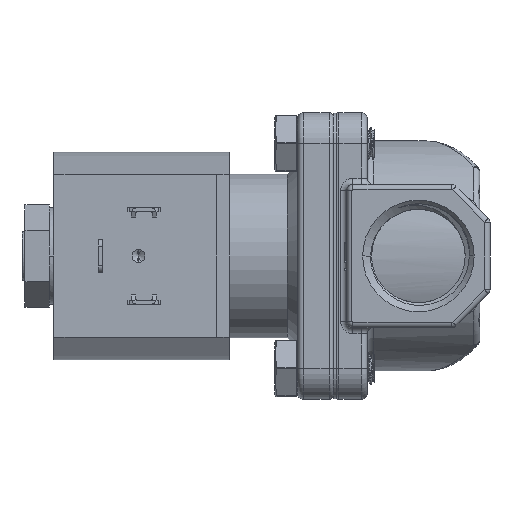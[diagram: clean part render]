
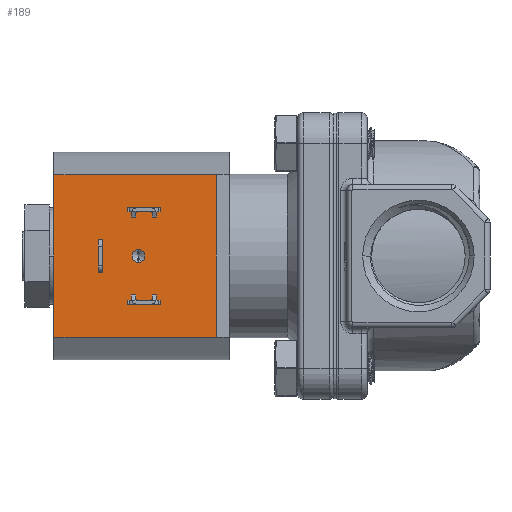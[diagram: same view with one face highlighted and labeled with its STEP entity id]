
A CAD part, left-side view. The second image highlights one B-rep face of the part: STEP entity #189.
In plain terms, the highlighted planar face has unit normal (-1, 0, 0).
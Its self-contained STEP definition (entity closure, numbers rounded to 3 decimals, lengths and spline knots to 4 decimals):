
#141 = ORIENTED_EDGE ( 'NONE', *, *, #15889, .F. ) ;
#189 = ADVANCED_FACE ( 'Defeatured_0_408', ( #18984, #29758, #16335, #9251, #17200 ), #12078, .T. ) ;
#251 = VERTEX_POINT ( 'NONE', #28149 ) ;
#536 = EDGE_CURVE ( 'NONE', #11740, #24537, #7478, .T. ) ;
#1131 = CARTESIAN_POINT ( 'NONE',  ( -0.982, 1.33, -0.371 ) ) ;
#1153 = CARTESIAN_POINT ( 'NONE',  ( -0.982, 1.33, -0.339 ) ) ;
#1196 = DIRECTION ( 'NONE',  ( 0., 1., 0. ) ) ;
#1374 = DIRECTION ( 'NONE',  ( 0., 1., 0. ) ) ;
#1935 = VECTOR ( 'NONE', #2552, 39.3701 ) ;
#2452 = VERTEX_POINT ( 'NONE', #26514 ) ;
#2552 = DIRECTION ( 'NONE',  ( 0., -1., 0. ) ) ;
#2632 = CARTESIAN_POINT ( 'NONE',  ( -0.982, 1.805, -0.1265 ) ) ;
#4184 = LINE ( 'NONE', #15298, #6040 ) ;
#4232 = ORIENTED_EDGE ( 'NONE', *, *, #21025, .F. ) ;
#4579 = ORIENTED_EDGE ( 'NONE', *, *, #33064, .F. ) ;
#4583 = LINE ( 'NONE', #29458, #34746 ) ;
#5320 = VECTOR ( 'NONE', #21843, 39.3701 ) ;
#6040 = VECTOR ( 'NONE', #25714, 39.3701 ) ;
#6442 = CARTESIAN_POINT ( 'NONE',  ( -0.982, 1.773, -0.1265 ) ) ;
#6453 = CARTESIAN_POINT ( 'NONE',  ( -0.982, 1.58, 0.339 ) ) ;
#6896 = CARTESIAN_POINT ( 'NONE',  ( -0.982, 1.58, 0.371 ) ) ;
#6968 = EDGE_LOOP ( 'NONE', ( #12066, #25446, #32885, #16930 ) ) ;
#7101 = ORIENTED_EDGE ( 'NONE', *, *, #20048, .F. ) ;
#7478 = LINE ( 'NONE', #18247, #34078 ) ;
#7483 = CARTESIAN_POINT ( 'NONE',  ( -0.982, 1.805, 0.1265 ) ) ;
#8448 = CARTESIAN_POINT ( 'NONE',  ( -0.982, 1.805, 0.1265 ) ) ;
#8556 = EDGE_LOOP ( 'NONE', ( #4232, #7101, #32869, #9155 ) ) ;
#8922 = LINE ( 'NONE', #11565, #20991 ) ;
#9098 = VERTEX_POINT ( 'NONE', #10695 ) ;
#9155 = ORIENTED_EDGE ( 'NONE', *, *, #20019, .T. ) ;
#9161 = VECTOR ( 'NONE', #31577, 39.3701 ) ;
#9251 = FACE_BOUND ( 'NONE', #30604, .T. ) ;
#9790 = CARTESIAN_POINT ( 'NONE',  ( -0.982, 0.896, -0.625 ) ) ;
#10081 = EDGE_CURVE ( 'NONE', #23836, #30489, #4583, .T. ) ;
#10289 = VECTOR ( 'NONE', #28170, 39.3701 ) ;
#10695 = CARTESIAN_POINT ( 'NONE',  ( -0.982, 1.58, -0.339 ) ) ;
#11565 = CARTESIAN_POINT ( 'NONE',  ( -0.982, 1.58, 0.371 ) ) ;
#11581 = LINE ( 'NONE', #17055, #33244 ) ;
#11740 = VERTEX_POINT ( 'NONE', #24081 ) ;
#11994 = VERTEX_POINT ( 'NONE', #34009 ) ;
#12066 = ORIENTED_EDGE ( 'NONE', *, *, #10081, .T. ) ;
#12078 = PLANE ( 'NONE',  #23345 ) ;
#12331 = VECTOR ( 'NONE', #1374, 39.3701 ) ;
#12704 = CARTESIAN_POINT ( 'NONE',  ( -0.982, 2.146, -0.625 ) ) ;
#12743 = VERTEX_POINT ( 'NONE', #1131 ) ;
#13348 = EDGE_CURVE ( 'NONE', #32670, #9098, #4184, .T. ) ;
#14377 = ORIENTED_EDGE ( 'NONE', *, *, #21845, .F. ) ;
#14497 = VERTEX_POINT ( 'NONE', #12704 ) ;
#14606 = LINE ( 'NONE', #17616, #12331 ) ;
#14690 = AXIS2_PLACEMENT_3D ( 'NONE', #30464, #33640, #17391 ) ;
#14907 = VERTEX_POINT ( 'NONE', #9790 ) ;
#14969 = EDGE_CURVE ( 'NONE', #25471, #11994, #15601, .T. ) ;
#15298 = CARTESIAN_POINT ( 'NONE',  ( -0.982, 1.58, -0.371 ) ) ;
#15601 = LINE ( 'NONE', #7483, #33758 ) ;
#15627 = CARTESIAN_POINT ( 'NONE',  ( -0.982, 1.4954, 0.0497 ) ) ;
#15889 = EDGE_CURVE ( 'NONE', #16027, #21202, #16263, .T. ) ;
#15956 = LINE ( 'NONE', #29379, #1935 ) ;
#16027 = VERTEX_POINT ( 'NONE', #31785 ) ;
#16131 = EDGE_CURVE ( 'NONE', #2452, #30489, #31011, .T. ) ;
#16263 = CIRCLE ( 'NONE', #28678, 0.0497 ) ;
#16335 = FACE_OUTER_BOUND ( 'NONE', #8556, .T. ) ;
#16681 = CARTESIAN_POINT ( 'NONE',  ( -0.982, 0.896, -0.625 ) ) ;
#16930 = ORIENTED_EDGE ( 'NONE', *, *, #28326, .T. ) ;
#17055 = CARTESIAN_POINT ( 'NONE',  ( -0.982, 1.33, -0.371 ) ) ;
#17127 = DIRECTION ( 'NONE',  ( 0., 0., 1. ) ) ;
#17200 = FACE_BOUND ( 'NONE', #31590, .T. ) ;
#17259 = LINE ( 'NONE', #27857, #32068 ) ;
#17285 = VERTEX_POINT ( 'NONE', #20622 ) ;
#17334 = VECTOR ( 'NONE', #25702, 39.3701 ) ;
#17391 = DIRECTION ( 'NONE',  ( 0., 0., 1. ) ) ;
#17392 = CARTESIAN_POINT ( 'NONE',  ( -0.982, 1.773, -0.1265 ) ) ;
#17616 = CARTESIAN_POINT ( 'NONE',  ( -0.982, 0.896, 0.625 ) ) ;
#17732 = DIRECTION ( 'NONE',  ( 0., -1., 0. ) ) ;
#17741 = CARTESIAN_POINT ( 'NONE',  ( -0.982, 1.58, -0.371 ) ) ;
#18247 = CARTESIAN_POINT ( 'NONE',  ( -0.982, 1.805, -0.1265 ) ) ;
#18316 = LINE ( 'NONE', #29088, #9161 ) ;
#18585 = EDGE_LOOP ( 'NONE', ( #23401, #141 ) ) ;
#18877 = EDGE_CURVE ( 'NONE', #34071, #2452, #29933, .T. ) ;
#18984 = FACE_BOUND ( 'NONE', #18585, .T. ) ;
#19200 = LINE ( 'NONE', #2632, #5320 ) ;
#19757 = CARTESIAN_POINT ( 'NONE',  ( -0.982, 1.4954, 0. ) ) ;
#20008 = DIRECTION ( 'NONE',  ( -1., 0., 0. ) ) ;
#20019 = EDGE_CURVE ( 'NONE', #251, #17285, #14606, .T. ) ;
#20048 = EDGE_CURVE ( 'NONE', #14907, #14497, #17259, .T. ) ;
#20559 = DIRECTION ( 'NONE',  ( 0., 0., 1. ) ) ;
#20567 = LINE ( 'NONE', #17392, #10289 ) ;
#20622 = CARTESIAN_POINT ( 'NONE',  ( -0.982, 2.146, 0.625 ) ) ;
#20934 = CARTESIAN_POINT ( 'NONE',  ( -0.982, 1.33, 0.371 ) ) ;
#20991 = VECTOR ( 'NONE', #27464, 39.3701 ) ;
#21025 = EDGE_CURVE ( 'NONE', #14497, #17285, #28714, .T. ) ;
#21184 = ORIENTED_EDGE ( 'NONE', *, *, #536, .F. ) ;
#21202 = VERTEX_POINT ( 'NONE', #15627 ) ;
#21843 = DIRECTION ( 'NONE',  ( 0., 0., 1. ) ) ;
#21845 = EDGE_CURVE ( 'NONE', #12743, #24485, #11581, .T. ) ;
#22478 = DIRECTION ( 'NONE',  ( 0., 0., 1. ) ) ;
#23345 = AXIS2_PLACEMENT_3D ( 'NONE', #16681, #20008, #22478 ) ;
#23401 = ORIENTED_EDGE ( 'NONE', *, *, #24548, .F. ) ;
#23574 = DIRECTION ( 'NONE',  ( 0., 0., 1. ) ) ;
#23721 = DIRECTION ( 'NONE',  ( 0., -1., 0. ) ) ;
#23836 = VERTEX_POINT ( 'NONE', #20934 ) ;
#24081 = CARTESIAN_POINT ( 'NONE',  ( -0.982, 1.805, -0.1265 ) ) ;
#24111 = DIRECTION ( 'NONE',  ( 0., 0., -1. ) ) ;
#24280 = CARTESIAN_POINT ( 'NONE',  ( -0.982, 1.58, 0.371 ) ) ;
#24485 = VERTEX_POINT ( 'NONE', #1153 ) ;
#24537 = VERTEX_POINT ( 'NONE', #6442 ) ;
#24548 = EDGE_CURVE ( 'NONE', #21202, #16027, #29350, .T. ) ;
#24890 = VECTOR ( 'NONE', #20559, 39.3701 ) ;
#25154 = CARTESIAN_POINT ( 'NONE',  ( -0.982, 0.896, -0.625 ) ) ;
#25446 = ORIENTED_EDGE ( 'NONE', *, *, #16131, .F. ) ;
#25471 = VERTEX_POINT ( 'NONE', #8448 ) ;
#25702 = DIRECTION ( 'NONE',  ( 0., -1., 0. ) ) ;
#25714 = DIRECTION ( 'NONE',  ( 0., 0., 1. ) ) ;
#26514 = CARTESIAN_POINT ( 'NONE',  ( -0.982, 1.58, 0.339 ) ) ;
#26816 = DIRECTION ( 'NONE',  ( 0., 0., -1. ) ) ;
#27464 = DIRECTION ( 'NONE',  ( 0., -1., 0. ) ) ;
#27824 = EDGE_CURVE ( 'NONE', #14907, #251, #28161, .T. ) ;
#27857 = CARTESIAN_POINT ( 'NONE',  ( -0.982, 0.896, -0.625 ) ) ;
#28149 = CARTESIAN_POINT ( 'NONE',  ( -0.982, 0.896, 0.625 ) ) ;
#28161 = LINE ( 'NONE', #25154, #24890 ) ;
#28170 = DIRECTION ( 'NONE',  ( 0., 0., 1. ) ) ;
#28281 = ORIENTED_EDGE ( 'NONE', *, *, #13348, .T. ) ;
#28326 = EDGE_CURVE ( 'NONE', #34071, #23836, #8922, .T. ) ;
#28534 = EDGE_CURVE ( 'NONE', #24537, #11994, #20567, .T. ) ;
#28678 = AXIS2_PLACEMENT_3D ( 'NONE', #19757, #30547, #17127 ) ;
#28714 = LINE ( 'NONE', #31880, #30397 ) ;
#29088 = CARTESIAN_POINT ( 'NONE',  ( -0.982, 1.58, -0.339 ) ) ;
#29350 = CIRCLE ( 'NONE', #14690, 0.0497 ) ;
#29379 = CARTESIAN_POINT ( 'NONE',  ( -0.982, 1.58, -0.371 ) ) ;
#29458 = CARTESIAN_POINT ( 'NONE',  ( -0.982, 1.33, 0.371 ) ) ;
#29662 = CARTESIAN_POINT ( 'NONE',  ( -0.982, 1.33, 0.339 ) ) ;
#29758 = FACE_BOUND ( 'NONE', #6968, .T. ) ;
#29933 = LINE ( 'NONE', #24280, #32045 ) ;
#30155 = EDGE_CURVE ( 'NONE', #9098, #24485, #18316, .T. ) ;
#30397 = VECTOR ( 'NONE', #23574, 39.3701 ) ;
#30464 = CARTESIAN_POINT ( 'NONE',  ( -0.982, 1.4954, 0. ) ) ;
#30474 = ORIENTED_EDGE ( 'NONE', *, *, #14969, .T. ) ;
#30489 = VERTEX_POINT ( 'NONE', #29662 ) ;
#30547 = DIRECTION ( 'NONE',  ( -1., 0., 0. ) ) ;
#30604 = EDGE_LOOP ( 'NONE', ( #32106, #21184, #31986, #30474 ) ) ;
#31011 = LINE ( 'NONE', #6453, #17334 ) ;
#31577 = DIRECTION ( 'NONE',  ( 0., -1., 0. ) ) ;
#31590 = EDGE_LOOP ( 'NONE', ( #14377, #4579, #28281, #31858 ) ) ;
#31785 = CARTESIAN_POINT ( 'NONE',  ( -0.982, 1.4954, -0.0498 ) ) ;
#31858 = ORIENTED_EDGE ( 'NONE', *, *, #30155, .T. ) ;
#31880 = CARTESIAN_POINT ( 'NONE',  ( -0.982, 2.146, -0.625 ) ) ;
#31986 = ORIENTED_EDGE ( 'NONE', *, *, #32515, .T. ) ;
#32045 = VECTOR ( 'NONE', #24111, 39.3701 ) ;
#32068 = VECTOR ( 'NONE', #1196, 39.3701 ) ;
#32106 = ORIENTED_EDGE ( 'NONE', *, *, #28534, .F. ) ;
#32515 = EDGE_CURVE ( 'NONE', #11740, #25471, #19200, .T. ) ;
#32670 = VERTEX_POINT ( 'NONE', #17741 ) ;
#32869 = ORIENTED_EDGE ( 'NONE', *, *, #27824, .T. ) ;
#32885 = ORIENTED_EDGE ( 'NONE', *, *, #18877, .F. ) ;
#33064 = EDGE_CURVE ( 'NONE', #32670, #12743, #15956, .T. ) ;
#33131 = DIRECTION ( 'NONE',  ( 0., 0., 1. ) ) ;
#33244 = VECTOR ( 'NONE', #33131, 39.3701 ) ;
#33640 = DIRECTION ( 'NONE',  ( -1., 0., 0. ) ) ;
#33758 = VECTOR ( 'NONE', #23721, 39.3701 ) ;
#34009 = CARTESIAN_POINT ( 'NONE',  ( -0.982, 1.773, 0.1265 ) ) ;
#34071 = VERTEX_POINT ( 'NONE', #6896 ) ;
#34078 = VECTOR ( 'NONE', #17732, 39.3701 ) ;
#34746 = VECTOR ( 'NONE', #26816, 39.3701 ) ;
